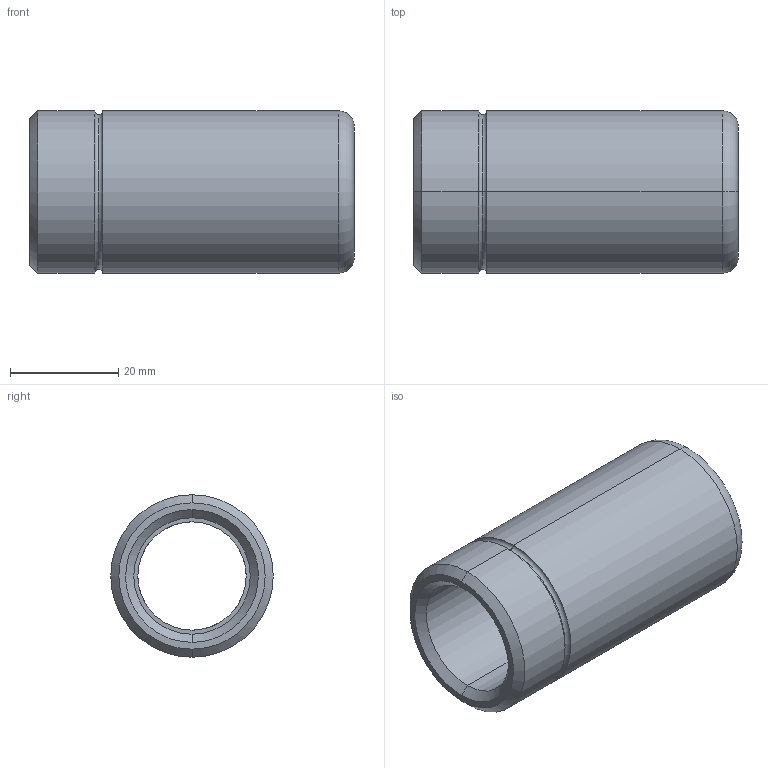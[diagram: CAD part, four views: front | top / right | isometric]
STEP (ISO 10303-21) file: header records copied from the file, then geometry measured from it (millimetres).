
FILE_DESCRIPTION(('CATIA V5 STEP Exchange'),'2;1');
FILE_NAME('C:\Users\Utente\Desktop\IO LAVORO\3D X SITO CF\X SITO\343-348\343-20 x 60.stp','2020-12-30T19:38:19+00:00',('none'),('none'),'CATIA Version 5 Release 20 GA (IN-10)','CATIA V5 STEP AP203','none');
FILE_SCHEMA(('CONFIG_CONTROL_DESIGN'));
Length unit declared in the file: millimetre
Products named in the file (1): 343-20 x 60
Bounding box: 60 x 30 x 30 mm (x, y, z)
Volume: 21945.6 mm3; surface area: 10215.2 mm2
Topology: 1 solids, 1 shells, 29 faces, 86 edges, 60 vertices
Faces by surface type: torus 12, cylinder 10, cone 4, plane 3
Entity records: 1154 total; most frequent: CARTESIAN_POINT 344, ORIENTED_EDGE 172, DIRECTION 132, AXIS2_PLACEMENT_3D 90, EDGE_CURVE 86, CIRCLE 60, VERTEX_POINT 60, EDGE_LOOP 32
